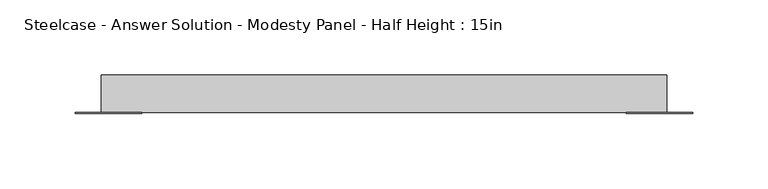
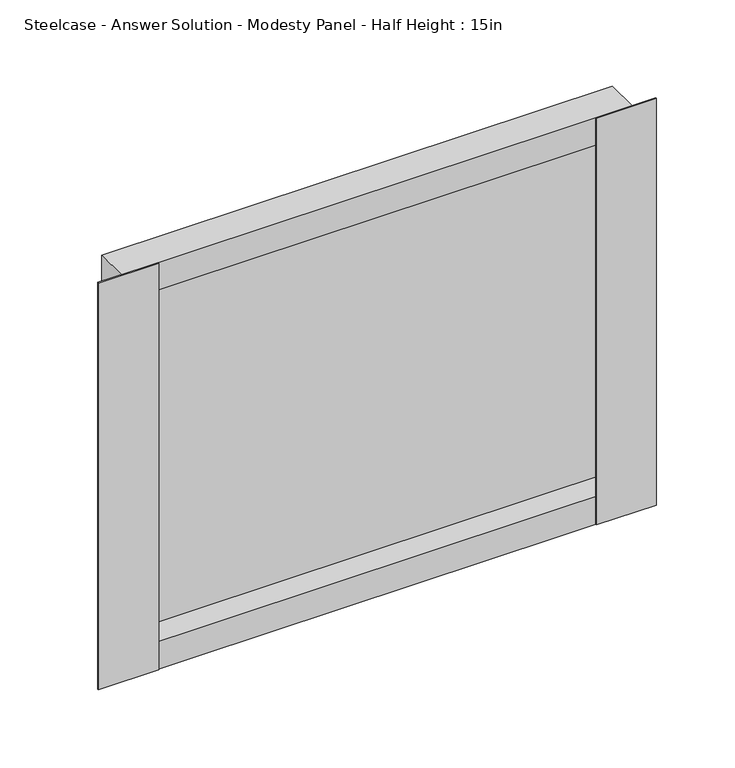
"""IFC4 building model written with IfcOpenShell, lengths in millimetres: furniture geometry, Steelcase - Answer Solution - Modesty Panel - Half Height : 15in."""

from ifc_helpers import new_model, si_unit, frame, origin, place, context, project, spatial, polyline, outline, extrude, faceted_brep, source, transform, mapped, element, save


def steelcase_answer_solution_modesty_panel_half_height_15in_3673dff0(model_context):
    return source(origin(), model_context, "Body", "SolidModel", [
        extrude(outline(polyline([(924.5400478, -14.2668826), (924.5400478, -15.0593624), (880.1248254, -15.0593624), (880.1248254, -14.2668826), (924.5400478, -14.2668826)])), frame((0.0, 0.0, 17.653), z_axis=(0.0, 0.0, 1.0), x_axis=(1.0, 0.0, 0.0)), (0.0, 0.0, 1.0), 317.5),
        extrude(outline(polyline([(556.9673392, -14.2668826), (556.9673392, -15.0593624), (512.5520826, -15.0593624), (512.5520826, -14.2668826), (556.9673392, -14.2668826)])), frame((0.0, 0.0, 17.653), z_axis=(0.0, 0.0, 1.0), x_axis=(1.0, 0.0, 0.0)), (0.0, 0.0, 1.0), 317.5),
        faceted_brep([(530.0780827, 10.9045177, 17.653), (530.0780827, -14.2668826, 17.653), (530.0780827, -14.2668826, 335.153), (530.0780827, 10.9045177, 335.153), (907.0140827, -14.2668826, 17.653), (907.0140827, 10.9045177, 17.653), (907.0140827, 10.9045177, 335.153), (907.0140827, -14.2668826, 335.153), (906.2216165, 4.7831174, 39.243), (530.8705628, 4.7831174, 39.243), (530.8705628, -14.2668826, 39.243), (906.2216165, -14.2668826, 39.243), (530.8705628, -14.2668826, 313.563), (906.2216165, -14.2668826, 313.563), (530.8705628, 4.7831174, 313.563), (906.2216165, 4.7831174, 313.563)], [[[0, 1, 2, 3]], [[4, 5, 6, 7]], [[8, 9, 10, 11]], [[0, 3, 6, 5]], [[4, 1, 0, 5]], [[2, 1, 4, 7], [10, 12, 13, 11]], [[3, 2, 7, 6]], [[14, 15, 13, 12]], [[9, 8, 15, 14]], [[12, 10, 9, 14]], [[11, 13, 15, 8]]]),
    ])


if __name__ == "__main__":
    model = new_model("IFC4")
    model_context = context("Model", 3, world=origin())
    ifc_project = project(units=[si_unit("LENGTHUNIT", "METRE", prefix="MILLI")], contexts=[model_context])
    site = spatial("IfcSite", under=ifc_project)
    building = spatial("IfcBuilding", under=site)
    placement = place(None, origin())
    steelcase_answer_solution_modesty_panel_half_height_15in_shape = steelcase_answer_solution_modesty_panel_half_height_15in_3673dff0(model_context)
    element("IfcFurniture", 1, ObjectType="Steelcase - Answer Solution - Modesty Panel - Half Height : 15in", at=placement, inside=building, context=model_context, shape_type="MappedRepresentation", body=[
        mapped(steelcase_answer_solution_modesty_panel_half_height_15in_shape, transform((0.0, 0.0, 0.0), x_axis=(1.0, 0.0, 0.0), y_axis=(0.0, 1.0, 0.0), z_axis=(0.0, 0.0, 1.0))),
    ])
    save(model, "model.ifc")
